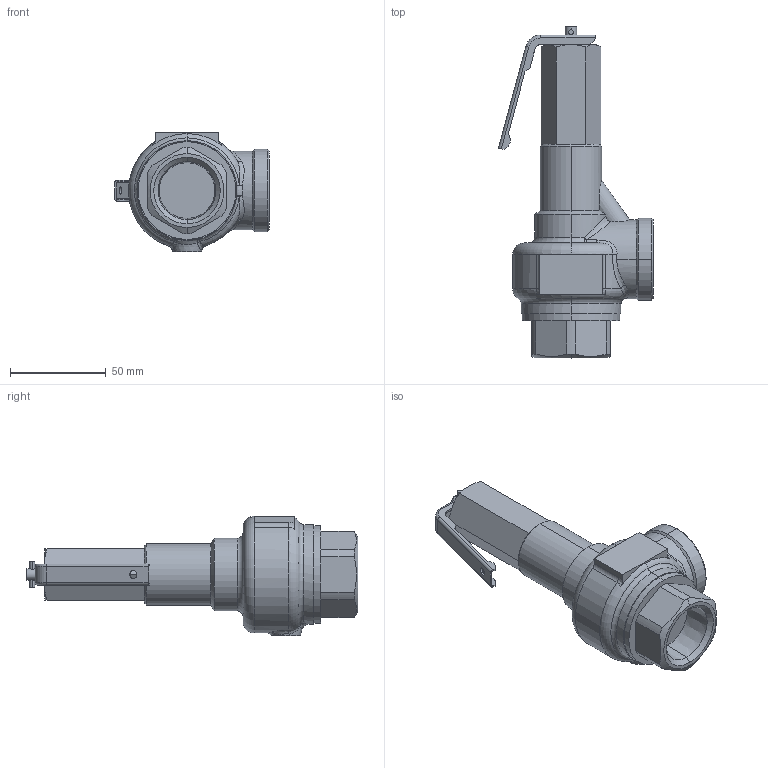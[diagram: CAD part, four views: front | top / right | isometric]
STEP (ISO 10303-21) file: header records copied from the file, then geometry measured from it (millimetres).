
FILE_DESCRIPTION (( 'STEP AP203' ), '1' );
FILE_NAME ('AL-150TML 25A.STEP', '2026-01-08T02:25:47', ( '' ), ( '' ), 'SwSTEP 2.0', 'SolidWorks 2024', '' );
FILE_SCHEMA (( 'CONFIG_CONTROL_DESIGN' ));
Length unit declared in the file: millimetre
Products named in the file (3): AL-12 Lever; AL-150TML 25A; AL-150TML 25A(non-lever)-3D
Assembly tree (2 placements, depth 2):
  AL-150TML 25A
    AL-150TML 25A(non-lever)-3D
    AL-12 Lever
Bounding box: 80.79 x 173.25 x 62.5 mm (x, y, z)
Volume: 221945.4 mm3; surface area: 33754 mm2
Topology: 2 solids, 2 shells, 189 faces, 454 edges, 273 vertices
Faces by surface type: plane 62, cylinder 56, cone 32, bspline 17, torus 16, sphere 6
Entity records: 7305 total; most frequent: CARTESIAN_POINT 2691, DIRECTION 926, ORIENTED_EDGE 904, EDGE_CURVE 452, AXIS2_PLACEMENT_3D 375, VERTEX_POINT 273, EDGE_LOOP 199, CIRCLE 198
